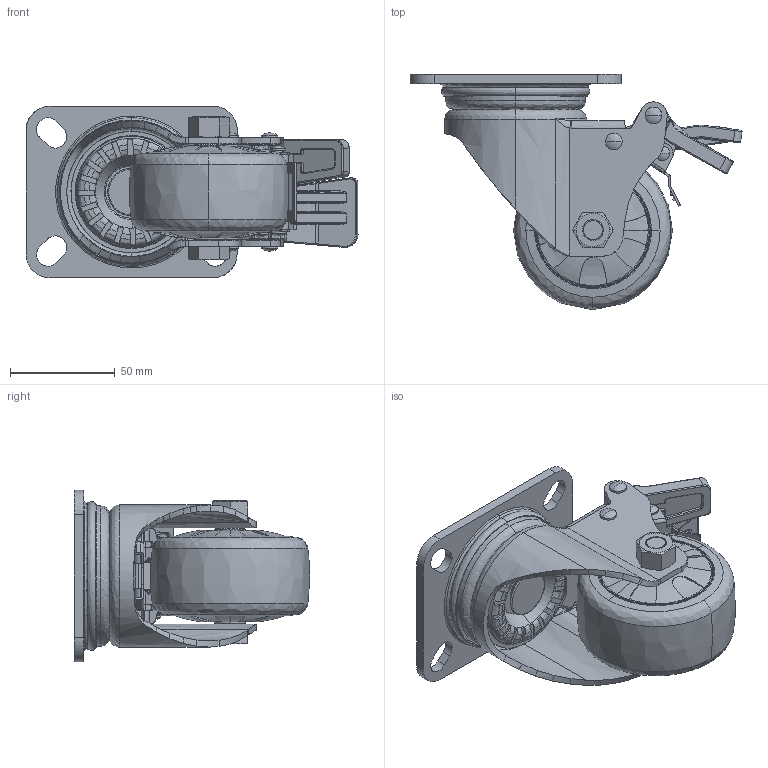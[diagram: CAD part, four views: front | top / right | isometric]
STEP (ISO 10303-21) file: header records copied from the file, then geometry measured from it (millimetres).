
FILE_DESCRIPTION (( 'STEP AP203' ), '1' );
FILE_NAME ('3渡勀砃湍价陬.STEP', '2024-12-26T07:43:38', ( '' ), ( '' ), 'SwSTEP 2.0', 'SolidWorks 2023', '' );
FILE_SCHEMA (( 'CONFIG_CONTROL_DESIGN' ));
Length unit declared in the file: millimetre
Products named in the file (3): 3寸万向带刹车; B05S-01D-75-612; 防尘盖
Assembly tree (3 placements, depth 2):
  3寸万向带刹车
    B05S-01D-75-612
    防尘盖  x2
Bounding box: 158.79 x 112.59 x 82 mm (x, y, z)
Volume: 11574.2 mm3; surface area: 178154.5 mm2
Topology: 2 solids, 151 shells, 1984 faces, 5810 edges, 3839 vertices
Faces by surface type: bspline 1823, plane 97, cylinder 60, torus 4
Entity records: 98945 total; most frequent: CARTESIAN_POINT 65862, ORIENTED_EDGE 10236, EDGE_CURVE 5547, B_SPLINE_CURVE_WITH_KNOTS 4064, VERTEX_POINT 3815, EDGE_LOOP 2067, FACE_OUTER_BOUND 1944, ADVANCED_FACE 1938
